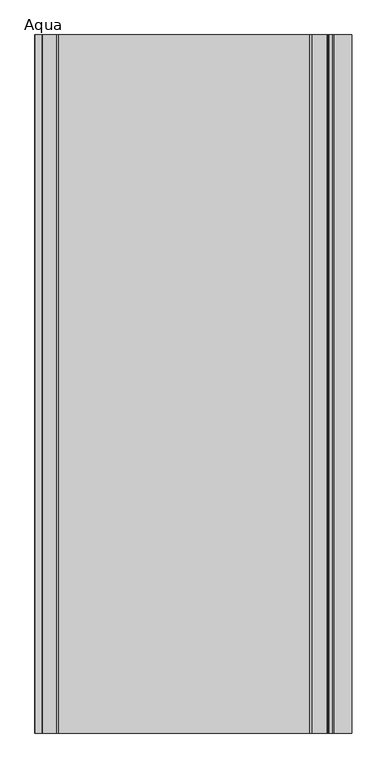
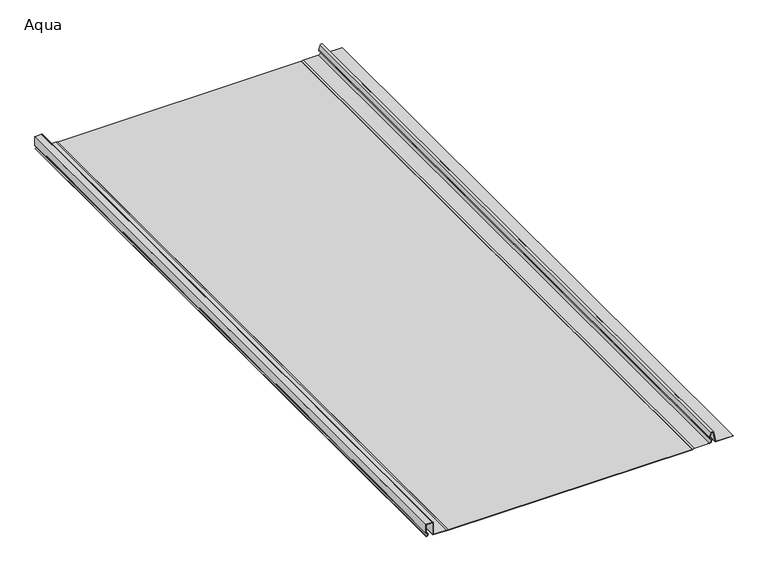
"""IFC4 building model written with IfcOpenShell, lengths in millimetres: proxy geometry, AQUAPLAST - Panel Dachowy i Elewacyjny Aqua : Aqua."""

import ifcopenshell
import ifcopenshell.guid

model = None  # the IFC model being written
_history = None  # IfcOwnerHistory: only IFC2X3 demands one
_inside = {}  # id of a spatial element -> (the spatial element, [elements in it])
_under = {}  # id of a project, library or spatial element -> (it, [spatial elements below it])
_declared = {}  # id of a project -> (the project, [libraries it declares])
_typed = {}  # id of a type object -> (the type object, [elements of that type])
_made_of = {}  # id of a material, layer set ... -> (it, [elements and type objects made of it])


def new_model(schema):
    """Start an empty IFC model of exactly this schema.

    Asked for "IFC4X3", IfcOpenShell would pick the latest addendum, in which some entities
    have other attributes; the version numbers below select the first issue.
    IFC2X3 requires an IfcOwnerHistory on every rooted entity: one is made here for all.
    """
    global model, _history
    if schema == "IFC4X3":
        model = ifcopenshell.file(schema_version=(4, 3, 0, 0))
    else:
        model = ifcopenshell.file(schema=schema)
    _inside.clear()
    _under.clear()
    _declared.clear()
    _typed.clear()
    _made_of.clear()
    _history = None
    if model.schema == "IFC2X3":
        org = make("IfcOrganization", Name="unknown")
        user = make(
            "IfcPersonAndOrganization",
            ThePerson=make("IfcPerson", FamilyName="unknown"),
            TheOrganization=org,
        )
        app = make(
            "IfcApplication",
            ApplicationDeveloper=org,
            Version="unknown",
            ApplicationFullName="unknown",
            ApplicationIdentifier="unknown",
        )
        _history = make(
            "IfcOwnerHistory",
            OwningUser=user,
            OwningApplication=app,
            ChangeAction="ADDED",
            CreationDate=0,
        )
    return model


def make(cls, **values):
    """One entity of the class cls with the attributes given. An attribute that is None is left unset."""
    return model.create_entity(
        cls, **{name: value for name, value in values.items() if value is not None}
    )


def rooted(cls, **values):
    """An entity with a GlobalId (a new one), such as an element, a storey or a relation."""
    return make(cls, GlobalId=ifcopenshell.guid.new(), OwnerHistory=_history, **values)


def si_unit(unit_type, name, prefix=None):
    """IfcSIUnit, for example si_unit("LENGTHUNIT", "METRE", prefix="MILLI")."""
    return make("IfcSIUnit", UnitType=unit_type, Prefix=prefix, Name=name)


def assignment(units):
    """IfcUnitAssignment: the units of a project."""
    return None if units is None else make("IfcUnitAssignment", Units=units)


def point(xyz):
    """IfcCartesianPoint."""
    return None if xyz is None else make("IfcCartesianPoint", Coordinates=xyz)


def direction(xyz):
    """IfcDirection."""
    return None if xyz is None else make("IfcDirection", DirectionRatios=xyz)


def frame(location, z_axis=None, x_axis=None):
    """IfcAxis2Placement3D, a coordinate frame: its origin and axes. An axis left out is left unset."""
    return make(
        "IfcAxis2Placement3D",
        Location=point(location),
        Axis=direction(z_axis),
        RefDirection=direction(x_axis),
    )


def frame_2d(location, x_axis=None):
    """IfcAxis2Placement2D, a coordinate frame in the plane: its origin and x axis."""
    return make(
        "IfcAxis2Placement2D", Location=point(location), RefDirection=direction(x_axis)
    )


def origin():
    """The frame at (0, 0, 0) with its axes left unset."""
    return frame((0.0, 0.0, 0.0))


def place(relative_to, where):
    """IfcLocalPlacement: puts the frame where relative to a parent placement (None: the world)."""
    return make(
        "IfcLocalPlacement", PlacementRelTo=relative_to, RelativePlacement=where
    )


def context(
    kind, dimensions, precision=None, world=None, true_north=None, identifier=None
):
    """IfcGeometricRepresentationContext, for example the 3D "Model" context."""
    return make(
        "IfcGeometricRepresentationContext",
        ContextIdentifier=identifier,
        ContextType=kind,
        CoordinateSpaceDimension=dimensions,
        Precision=precision,
        WorldCoordinateSystem=world,
        TrueNorth=true_north,
    )


def project(units=None, contexts=None):
    """IfcProject with its units and contexts."""
    return rooted(
        "IfcProject",
        Name="project",
        RepresentationContexts=contexts,
        UnitsInContext=assignment(units),
    )


def spatial(cls, under=None, at=None, **own):
    """A site, building, storey or space (cls), placed at a placement, below another one or the project."""
    s = rooted(cls, ObjectPlacement=at, **own)
    if under is not None:
        _under.setdefault(under.id(), (under, []))[1].append(s)
    return s


def polyline(points):
    """IfcPolyline through the points."""
    return make("IfcPolyline", Points=[point(p) for p in points])


def circle_curve(where, radius):
    """IfcCircle in the frame where."""
    return make("IfcCircle", Position=where, Radius=radius)


def trimmed(basis, trim1, trim2, sense, master):
    """IfcTrimmedCurve: the piece of a basis curve between two trims."""
    return make(
        "IfcTrimmedCurve",
        BasisCurve=basis,
        Trim1=trim1,
        Trim2=trim2,
        SenseAgreement=sense,
        MasterRepresentation=master,
    )


def segment(curve, same_sense, transition):
    """IfcCompositeCurveSegment."""
    return make(
        "IfcCompositeCurveSegment",
        Transition=transition,
        SameSense=same_sense,
        ParentCurve=curve,
    )


def composite_curve(segments, self_intersect=None):
    """IfcCompositeCurve: segments joined end to end."""
    return make("IfcCompositeCurve", Segments=segments, SelfIntersect=self_intersect)


def outline(outer, holes=None, kind="AREA"):
    """IfcArbitraryClosedProfileDef: a profile drawn as a closed curve; with holes, ...WithVoids."""
    if holes is None:
        return make("IfcArbitraryClosedProfileDef", ProfileType=kind, OuterCurve=outer)
    return make(
        "IfcArbitraryProfileDefWithVoids",
        ProfileType=kind,
        OuterCurve=outer,
        InnerCurves=holes,
    )


def extrude(swept, where, along, depth):
    """IfcExtrudedAreaSolid: the profile swept, set in the frame where, extruded along a direction by depth."""
    return make(
        "IfcExtrudedAreaSolid",
        SweptArea=swept,
        Position=where,
        ExtrudedDirection=direction(along),
        Depth=depth,
    )


def shape(context_of_items, identifier, shape_type, items):
    """IfcShapeRepresentation: the items that make up one representation, for example the "Body"."""
    return make(
        "IfcShapeRepresentation",
        ContextOfItems=context_of_items,
        RepresentationIdentifier=identifier,
        RepresentationType=shape_type,
        Items=items,
    )


def source(mapping_origin, context_of_items, identifier, shape_type, items):
    """IfcRepresentationMap: a shape defined once, which mapped items show again and again."""
    return make(
        "IfcRepresentationMap",
        MappingOrigin=mapping_origin,
        MappedRepresentation=shape(context_of_items, identifier, shape_type, items),
    )


def transform(
    local_origin,
    x_axis=None,
    y_axis=None,
    z_axis=None,
    scale=None,
    scale2=None,
    scale3=None,
    uniform=True,
):
    """IfcCartesianTransformationOperator3D, or its non-uniform kind. x_axis, y_axis, z_axis: its Axis1, 2, 3."""
    if uniform:
        return make(
            "IfcCartesianTransformationOperator3D",
            Axis1=direction(x_axis),
            Axis2=direction(y_axis),
            LocalOrigin=point(local_origin),
            Scale=scale,
            Axis3=direction(z_axis),
        )
    return make(
        "IfcCartesianTransformationOperator3DnonUniform",
        Axis1=direction(x_axis),
        Axis2=direction(y_axis),
        LocalOrigin=point(local_origin),
        Scale=scale,
        Axis3=direction(z_axis),
        Scale2=scale2,
        Scale3=scale3,
    )


def mapped(mapping_source, mapping_target):
    """IfcMappedItem: shows the shape of a source again, moved by a transform."""
    return make(
        "IfcMappedItem", MappingSource=mapping_source, MappingTarget=mapping_target
    )


def made_of(thing, what):
    """Note that an element or type object is made of a material, layer set ...; save() writes the relation."""
    if what is not None:
        _made_of.setdefault(what.id(), (what, []))[1].append(thing)
    return thing


def element(
    cls,
    number,
    at=None,
    inside=None,
    cuts=None,
    type_object=None,
    material=None,
    context=None,
    identifier="Body",
    shape_type=None,
    held_by="IfcProductDefinitionShape",
    body=None,
    shapes=None,
    **own,
):
    """One element of the class cls, such as IfcWall. Its Tag is "e" and its number.

    at: its placement. inside: the storey or other place that contains it. cuts: it is an
    opening in that element (IfcRelVoidsElement). A single representation is given by context,
    identifier, shape_type and body (its items); several are given by shapes. held_by: the class
    of the entity that holds the representations. save() writes the other relations.
    """
    e = rooted(cls, Tag="e%d" % number, ObjectPlacement=at, **own)
    if body is not None:
        shapes = [shape(context, identifier, shape_type, body)]
    if shapes is not None:
        e.Representation = make(held_by, Representations=shapes)
    if inside is not None:
        _inside.setdefault(inside.id(), (inside, []))[1].append(e)
    if cuts is not None:
        rooted(
            "IfcRelVoidsElement", RelatingBuildingElement=cuts, RelatedOpeningElement=e
        )
    if type_object is not None:
        _typed.setdefault(type_object.id(), (type_object, []))[1].append(e)
    return made_of(e, material)


def aggregate(whole, parts):
    """IfcRelAggregates: a whole, such as a stair, and the parts it consists of."""
    return rooted("IfcRelAggregates", RelatingObject=whole, RelatedObjects=parts)


def save(model, path):
    """Write the relations noted so far, then the file.

    IfcRelAggregates (storeys below a building ...), IfcRelContainedInSpatialStructure (elements
    in a storey), IfcRelDefinesByType, IfcRelAssociatesMaterial and IfcRelDeclares: one each for
    every whole, place, type object, material and project.
    """
    for whole, parts in _under.values():
        aggregate(whole, parts)
    for where, things in _inside.values():
        rooted(
            "IfcRelContainedInSpatialStructure",
            RelatedElements=things,
            RelatingStructure=where,
        )
    for kind, things in _typed.values():
        rooted("IfcRelDefinesByType", RelatedObjects=things, RelatingType=kind)
    for what, things in _made_of.values():
        rooted("IfcRelAssociatesMaterial", RelatedObjects=things, RelatingMaterial=what)
    for by, libraries in _declared.values():
        rooted("IfcRelDeclares", RelatingContext=by, RelatedDefinitions=libraries)
    model.write(path)


def aqua_0aed9e76(model_context):
    return source(origin(), model_context, "Body", "SweptSolid", [
        extrude(outline(composite_curve([segment(polyline([(50.8, 270.9), (50.8, 240.520912)]), True, "CONTINUOUS"), segment(trimmed(circle_curve(frame_2d((51.4640676, 240.520912)), 0.6640676), [point((50.8, 240.520912))], [point((51.3501315, 239.8666916))], True, "CARTESIAN"), True, "CONTINUOUS"), segment(polyline([(51.3501315, 239.8666916), (68.7653554, 236.8337349)]), True, "CONTINUOUS"), segment(trimmed(circle_curve(frame_2d((68.1818617, 234.1906389)), 2.7067363), [point((68.7653554, 236.8337349))], [point((69.5352298, 231.8465366))], False, "CARTESIAN"), True, "CONTINUOUS"), segment(polyline([(69.5352298, 231.8465366), (62.1941629, 228.8862764)]), True, "CONTINUOUS"), segment(trimmed(circle_curve(frame_2d((61.2676679, 231.1838657)), 2.4773594), [point((62.1941629, 228.8862764))], [point((59.0024093, 230.1809133))], False, "CARTESIAN"), True, "CONTINUOUS"), segment(trimmed(circle_curve(frame_2d((55.4667311, 228.6154775)), 3.8667311), [point((59.0024093, 230.1809133))], [point((51.6, 228.6154775))], True, "CARTESIAN"), True, "CONTINUOUS"), segment(polyline([(51.6, 228.6154775), (51.6, 201.7000503), (50.8, 198.2000503), (50.0, 198.2000503), (50.8, 201.7000503), (50.8, 228.4563021)]), True, "CONTINUOUS"), segment(trimmed(circle_curve(frame_2d((55.5014361, 228.4563021)), 4.7014361), [point((50.8, 228.4563021))], [point((59.7513874, 230.4666293))], False, "CARTESIAN"), True, "CONTINUOUS"), segment(trimmed(circle_curve(frame_2d((61.2676679, 231.1838657)), 1.6773594), [point((59.7513874, 230.4666293))], [point((61.8934079, 229.6275932))], True, "CARTESIAN"), True, "CONTINUOUS"), segment(polyline([(61.8934079, 229.6275932), (69.1352298, 232.5393569)]), True, "CONTINUOUS"), segment(trimmed(circle_curve(frame_2d((68.1818617, 234.1906389)), 1.9067363), [point((69.1352298, 232.5393569))], [point((68.4803326, 236.0738697))], True, "CARTESIAN"), True, "CONTINUOUS"), segment(polyline([(68.4803326, 236.0738697), (50.6241817, 238.9038691)]), True, "CONTINUOUS"), segment(trimmed(circle_curve(frame_2d((50.7400208, 239.6347673)), 0.7400208), [point((50.6241817, 238.9038691))], [point((50.0, 239.6347673))], False, "CARTESIAN"), True, "CONTINUOUS"), segment(polyline([(50.0, 239.6347673), (50.0, 270.9), (50.8, 270.9)]), True, "CONTINUOUS")], self_intersect=False)), frame((0.0, -1200.0, 0.0), z_axis=(0.0, 1.0, 0.0), x_axis=(0.0, 0.0, 1.0)), (0.0, 0.0, 1.0), 1200.0),
        extrude(outline(composite_curve([segment(polyline([(51.6, -237.5), (51.6, -260.6)]), True, "CONTINUOUS"), segment(trimmed(circle_curve(frame_2d((52.1, -260.6)), 0.5), [point((51.6, -260.6))], [point((52.1, -261.1))], True, "CARTESIAN"), True, "CONTINUOUS"), segment(polyline([(52.1, -261.1), (74.5, -261.1)]), True, "CONTINUOUS"), segment(trimmed(circle_curve(frame_2d((74.5, -261.6)), 0.5), [point((74.5, -261.1))], [point((75.0, -261.6))], False, "CARTESIAN"), True, "CONTINUOUS"), segment(polyline([(75.0, -261.6), (75.0, -273.6)]), True, "CONTINUOUS"), segment(trimmed(circle_curve(frame_2d((74.5, -273.6)), 0.5), [point((75.0, -273.6))], [point((74.5, -274.1))], False, "CARTESIAN"), True, "CONTINUOUS"), segment(polyline([(74.5, -274.1), (58.8039223, -274.1)]), True, "CONTINUOUS"), segment(trimmed(circle_curve(frame_2d((58.8039223, -273.4250457)), 0.6749543), [point((58.8039223, -274.1))], [point((58.1289934, -273.4191923))], False, "CARTESIAN"), True, "CONTINUOUS"), segment(trimmed(circle_curve(frame_2d((55.3847863, -273.4191923)), 2.7442071), [point((58.1289934, -273.4191923))], [point((52.6405793, -273.4191923))], True, "CARTESIAN"), True, "CONTINUOUS"), segment(polyline([(52.6405793, -273.4191923), (51.8403383, -273.4191923)]), True, "CONTINUOUS"), segment(trimmed(circle_curve(frame_2d((55.4137846, -273.4191923)), 3.5734462), [point((51.8403383, -273.4191923))], [point((58.9478642, -272.8902321))], False, "CARTESIAN"), True, "CONTINUOUS"), segment(trimmed(circle_curve(frame_2d((59.7850119, -272.4539484)), 0.9440125), [point((58.9478642, -272.8902321))], [point((59.7850119, -273.397961))], True, "CARTESIAN"), True, "CONTINUOUS"), segment(polyline([(59.7850119, -273.397961), (73.6993591, -273.397961)]), True, "CONTINUOUS"), segment(trimmed(circle_curve(frame_2d((73.6993591, -272.8966773)), 0.5012837), [point((73.6993591, -273.397961))], [point((74.2006428, -272.8966773))], True, "CARTESIAN"), True, "CONTINUOUS"), segment(polyline([(74.2006428, -272.8966773), (74.2006428, -262.4001579)]), True, "CONTINUOUS"), segment(trimmed(circle_curve(frame_2d((73.7003195, -262.4001579)), 0.5003233), [point((74.2006428, -262.4001579))], [point((73.7003195, -261.8998346))], True, "CARTESIAN"), True, "CONTINUOUS"), segment(polyline([(73.7003195, -261.8998346), (51.2999699, -261.8998346)]), True, "CONTINUOUS"), segment(trimmed(circle_curve(frame_2d((51.2999699, -261.3999248)), 0.4999098), [point((51.2999699, -261.8998346))], [point((50.8000601, -261.3999248))], False, "CARTESIAN"), True, "CONTINUOUS"), segment(polyline([(50.8000601, -261.3999248), (50.8000601, -237.5), (50.0, -234.0), (50.8, -234.0), (51.6, -237.5)]), True, "CONTINUOUS")], self_intersect=False)), frame((0.0, -1200.0, 0.0), z_axis=(0.0, 1.0, 0.0), x_axis=(0.0, 0.0, 1.0)), (0.0, 0.0, 1.0), 1200.0),
        extrude(outline(polyline([(-234.0, -1200.0), (-234.0, 0.0), (198.2000503, 0.0), (198.2000503, -1200.0), (-234.0, -1200.0)])), frame((0.0, 0.0, 50.0), z_axis=(0.0, 0.0, 1.0), x_axis=(1.0, 0.0, 0.0)), (0.0, 0.0, 1.0), 0.8),
    ])


if __name__ == "__main__":
    model = new_model("IFC4")
    model_context = context("Model", 3, world=origin())
    ifc_project = project(units=[si_unit("LENGTHUNIT", "METRE", prefix="MILLI")], contexts=[model_context])
    site = spatial("IfcSite", under=ifc_project)
    building = spatial("IfcBuilding", under=site)
    placement = place(None, origin())
    aqua_shape = aqua_0aed9e76(model_context)
    element("IfcBuildingElementProxy", 1, Name="AQUAPLAST - Panel Dachowy i Elewacyjny Aqua : Aqua", ObjectType="AQUAPLAST - Panel Dachowy i Elewacyjny Aqua : Aqua", at=placement, inside=building, context=model_context, shape_type="MappedRepresentation", body=[
        mapped(aqua_shape, transform((0.0, 0.0, 0.0), x_axis=(1.0, 0.0, 0.0), y_axis=(0.0, 1.0, 0.0), z_axis=(0.0, 0.0, 1.0))),
    ])
    save(model, "model.ifc")
